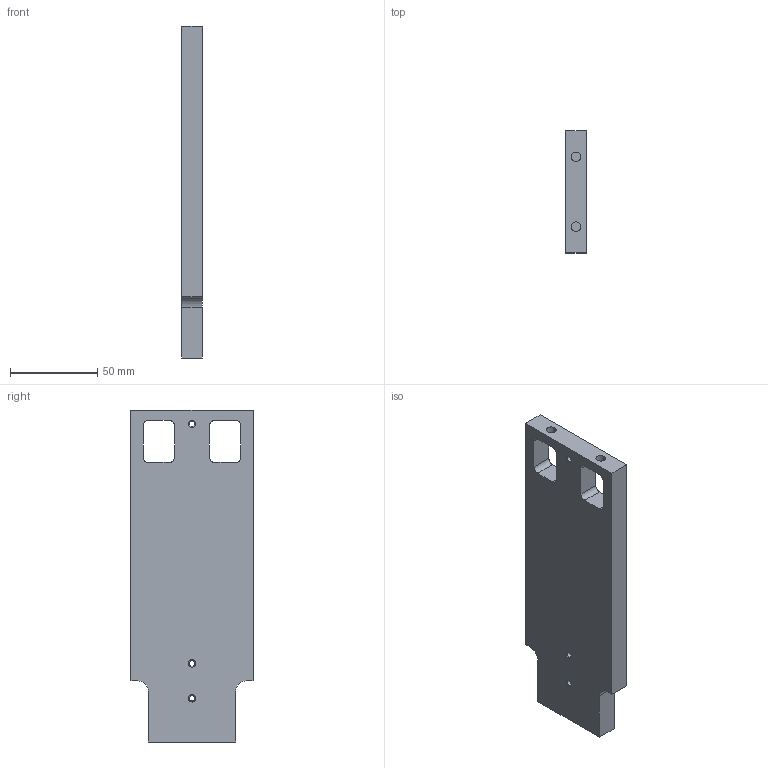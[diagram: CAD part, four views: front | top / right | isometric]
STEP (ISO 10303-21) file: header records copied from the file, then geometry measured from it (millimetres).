
FILE_DESCRIPTION(('STEP AP203'), '1');
FILE_NAME('ÒÏÏÔ1801.01.07.02.004 - Ñòîéêà çàäíÿÿ', '', ('UNSPECIFIED'), ('UNSPECIFIED'), 'C3D Converter', 'C3D Toolkit', '');
FILE_SCHEMA(('CONFIG_CONTROL_DESIGN'));
Length unit declared in the file: millimetre
Products named in the file (1): ТППФ1801.01.07.02.004
Bounding box: 12 x 70 x 190 mm (x, y, z)
Volume: 140317.4 mm3; surface area: 32269.5 mm2
Topology: 1 solids, 1 shells, 45 faces, 119 edges, 76 vertices
Faces by surface type: plane 18, cylinder 17, cone 10
Full cylindrical faces by diameter (mm): 3.242 x3, 4.134 x2, 5.5 x2
Entity records: 1715 total; most frequent: DIRECTION 234, CARTESIAN_POINT 220, ORIENTED_EDGE 200, EDGE_CURVE 100, AXIS2_PLACEMENT_3D 88, EDGE_LOOP 76, VERTEX_POINT 74, LINE 58
